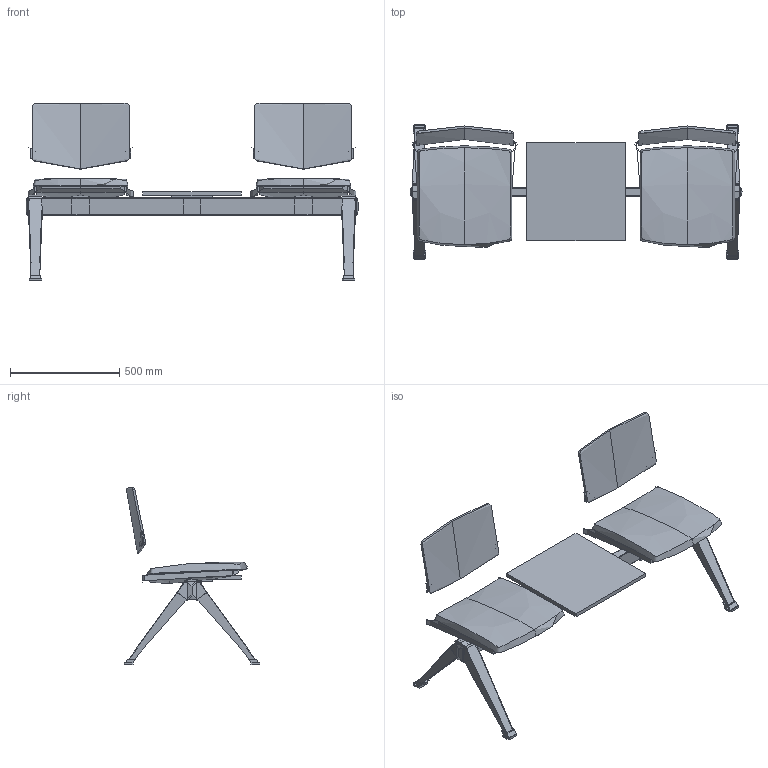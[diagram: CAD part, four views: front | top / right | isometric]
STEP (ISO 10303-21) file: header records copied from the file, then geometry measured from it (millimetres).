
FILE_DESCRIPTION(/* description */ (''),/* implementation_level */ '2;1');
FILE_NAME(/* name */ 'Seance 099-V2T',/* time_stamp */ '2020-03-26T14:34:55+01:00',/* author */ (''),/* organization */ (''),/* preprocessor_version */ 'ST-DEVELOPER v16.5',/* originating_system */ '',/* authorisation */ '');
FILE_SCHEMA (('AUTOMOTIVE_DESIGN'));
Length unit declared in the file: millimetre
Products named in the file (1): Document
Bounding box: 1520 x 620 x 812.99 mm (x, y, z)
Volume: 23641968.2 mm3; surface area: 3622409.2 mm2
Topology: 39 solids, 46 shells, 446 faces, 1050 edges, 672 vertices
Faces by surface type: bspline 232, plane 214
Entity records: 15495 total; most frequent: CARTESIAN_POINT 8621, ORIENTED_EDGE 1976, EDGE_CURVE 1028, B_SPLINE_CURVE_WITH_KNOTS 835, VERTEX_POINT 662, ADVANCED_FACE 446, FACE_OUTER_BOUND 446, EDGE_LOOP 446
